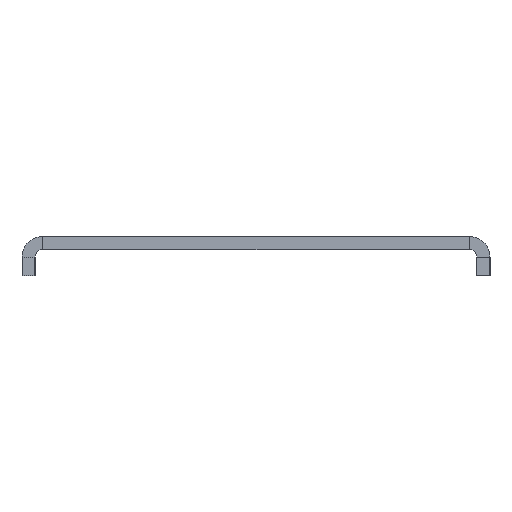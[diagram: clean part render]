
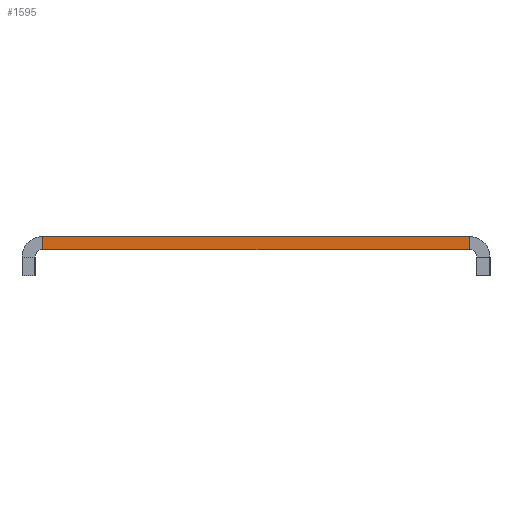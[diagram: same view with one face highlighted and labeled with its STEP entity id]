
A CAD part, left-side view. The second image highlights one B-rep face of the part: STEP entity #1595.
In plain terms, the highlighted planar face has unit normal (-1, 0, 0).
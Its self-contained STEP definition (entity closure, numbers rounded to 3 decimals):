
#1582=AXIS2_PLACEMENT_3D('Plane Axis2P3D',#1579,#1580,#1581) ;
#184=CARTESIAN_POINT('Vertex',(-170.,-82.,0.)) ;
#208=CARTESIAN_POINT('Vertex',(-170.,-82.,5.)) ;
#211=CARTESIAN_POINT('Line Origine',(-170.,-82.,2.5)) ;
#304=CARTESIAN_POINT('Vertex',(-170.,82.,5.)) ;
#307=CARTESIAN_POINT('Line Origine',(-170.,0.,5.)) ;
#852=CARTESIAN_POINT('Line Origine',(-170.,0.,0.)) ;
#856=CARTESIAN_POINT('Vertex',(-170.,82.,0.)) ;
#1579=CARTESIAN_POINT('Axis2P3D Location',(-170.,85.,0.)) ;
#1584=CARTESIAN_POINT('Line Origine',(-170.,82.,2.5)) ;
#212=DIRECTION('Vector Direction',(0.,0.,1.)) ;
#308=DIRECTION('Vector Direction',(0.,1.,0.)) ;
#853=DIRECTION('Vector Direction',(0.,-1.,0.)) ;
#1580=DIRECTION('Axis2P3D Direction',(-1.,0.,0.)) ;
#1581=DIRECTION('Axis2P3D XDirection',(0.,-1.,0.)) ;
#1585=DIRECTION('Vector Direction',(0.,0.,1.)) ;
#213=VECTOR('Line Direction',#212,1.) ;
#309=VECTOR('Line Direction',#308,1.) ;
#854=VECTOR('Line Direction',#853,1.) ;
#1586=VECTOR('Line Direction',#1585,1.) ;
#1590=ORIENTED_EDGE('',*,*,#858,.T.) ;
#1591=ORIENTED_EDGE('',*,*,#215,.T.) ;
#1592=ORIENTED_EDGE('',*,*,#311,.F.) ;
#1593=ORIENTED_EDGE('',*,*,#1588,.F.) ;
#1595=ADVANCED_FACE('\X2\96F64EF651E04F554F53\X0\',(#1594),#1583,.T.) ;
#215=EDGE_CURVE('',#185,#209,#214,.T.) ;
#311=EDGE_CURVE('',#305,#209,#310,.F.) ;
#858=EDGE_CURVE('',#857,#185,#855,.T.) ;
#1588=EDGE_CURVE('',#857,#305,#1587,.T.) ;
#1589=EDGE_LOOP('',(#1590,#1591,#1592,#1593)) ;
#1594=FACE_OUTER_BOUND('',#1589,.T.) ;
#214=LINE('Line',#211,#213) ;
#310=LINE('Line',#307,#309) ;
#855=LINE('Line',#852,#854) ;
#1587=LINE('Line',#1584,#1586) ;
#1583=PLANE('Plane',#1582) ;
#185=VERTEX_POINT('',#184) ;
#209=VERTEX_POINT('',#208) ;
#305=VERTEX_POINT('',#304) ;
#857=VERTEX_POINT('',#856) ;
